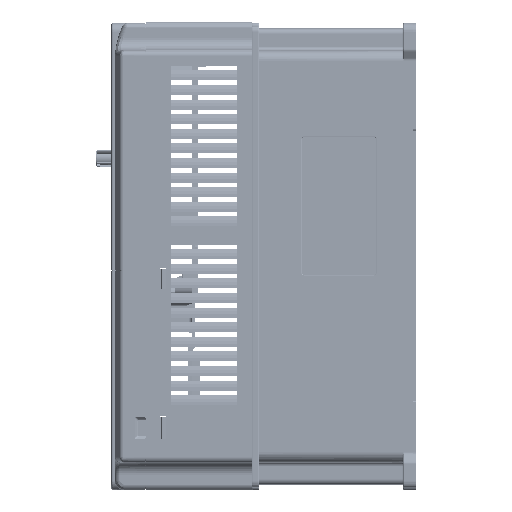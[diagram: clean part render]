
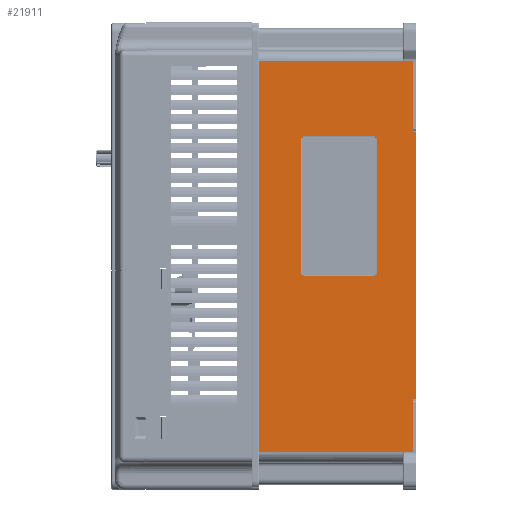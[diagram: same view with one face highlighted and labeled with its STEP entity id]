
A CAD part, left-side view. The second image highlights one B-rep face of the part: STEP entity #21911.
In plain terms, the highlighted planar face has unit normal (-1, 0, 0).
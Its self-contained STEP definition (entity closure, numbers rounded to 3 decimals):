
#30=DIRECTION('',(0.,0.,1.));
#31=VECTOR('',#30,146.);
#32=CARTESIAN_POINT('',(-70.,-80.,-78.));
#33=LINE('',#32,#31);
#122=DIRECTION('',(0.,0.,1.));
#123=VECTOR('',#122,29.169);
#124=CARTESIAN_POINT('',(-70.,-78.5,-107.169));
#125=LINE('',#124,#123);
#126=DIRECTION('',(0.,1.,0.));
#127=VECTOR('',#126,5.);
#128=CARTESIAN_POINT('',(-70.,-78.5,-107.169));
#129=LINE('',#128,#127);
#130=CARTESIAN_POINT('',(-70.,-73.405,
-107.403));
#131=CARTESIAN_POINT('',(-70.,-73.373,
-107.481));
#132=CARTESIAN_POINT('',(-70.,-73.298,
-107.663));
#133=CARTESIAN_POINT('',(-70.,-73.201,
-107.913));
#134=CARTESIAN_POINT('',(-70.,-73.116,
-108.162));
#135=CARTESIAN_POINT('',(-70.,-73.046,
-108.408));
#136=CARTESIAN_POINT('',(-70.,-73.013,-108.574));
#137=CARTESIAN_POINT('',(-70.,-73.,-108.657));
#139=DIRECTION('',(0.,-1.,0.));
#140=VECTOR('',#139,79.);
#141=CARTESIAN_POINT('',(-70.,6.,-107.));
#142=LINE('',#141,#140);
#143=DIRECTION('',(0.,0.,1.));
#144=VECTOR('',#143,214.);
#145=CARTESIAN_POINT('',(-70.,6.,-107.));
#146=LINE('',#145,#144);
#147=DIRECTION('',(0.,1.,0.));
#148=VECTOR('',#147,79.);
#149=CARTESIAN_POINT('',(-70.,-73.,107.));
#150=LINE('',#149,#148);
#151=CARTESIAN_POINT('',(-70.,-73.408,107.395));
#152=CARTESIAN_POINT('',(-70.,-73.366,107.478));
#153=CARTESIAN_POINT('',(-70.,-73.303,107.663));
#154=CARTESIAN_POINT('',(-70.,-73.183,107.953));
#155=CARTESIAN_POINT('',(-70.,-73.078,108.281));
#156=CARTESIAN_POINT('',(-70.,-73.02,108.527));
#157=CARTESIAN_POINT('',(-70.,-73.,108.657));
#159=DIRECTION('',(0.,-1.,0.));
#160=VECTOR('',#159,5.);
#161=CARTESIAN_POINT('',(-70.,-73.5,107.169));
#162=LINE('',#161,#160);
#163=DIRECTION('',(0.,0.,1.));
#164=VECTOR('',#163,39.169);
#165=CARTESIAN_POINT('',(-70.,-78.5,68.));
#166=LINE('',#165,#164);
#167=DIRECTION('',(0.,1.,0.));
#168=VECTOR('',#167,1.5);
#169=CARTESIAN_POINT('',(-70.,-80.,68.));
#170=LINE('',#169,#168);
#171=DIRECTION('',(0.,1.,0.));
#172=VECTOR('',#171,1.5);
#173=CARTESIAN_POINT('',(-70.,-80.,-78.));
#174=LINE('',#173,#172);
#175=CARTESIAN_POINT('',(-70.,-18.6,-9.));
#176=DIRECTION('',(1.,0.,0.));
#177=DIRECTION('',(0.,0.,-1.));
#178=AXIS2_PLACEMENT_3D('',#175,#176,#177);
#180=DIRECTION('',(0.,1.,0.));
#181=VECTOR('',#180,38.4);
#182=CARTESIAN_POINT('',(-70.,-57.,-10.458));
#183=LINE('',#182,#181);
#184=CARTESIAN_POINT('',(-70.,-57.,-9.));
#185=DIRECTION('',(1.,0.,0.));
#186=DIRECTION('',(0.,-1.,0.));
#187=AXIS2_PLACEMENT_3D('',#184,#185,#186);
#189=DIRECTION('',(0.,0.,-1.));
#190=VECTOR('',#189,73.4);
#191=CARTESIAN_POINT('',(-70.,-58.458,64.4));
#192=LINE('',#191,#190);
#193=CARTESIAN_POINT('',(-70.,-57.,64.4));
#194=DIRECTION('',(1.,0.,0.));
#195=DIRECTION('',(0.,0.,1.));
#196=AXIS2_PLACEMENT_3D('',#193,#194,#195);
#198=DIRECTION('',(0.,-1.,0.));
#199=VECTOR('',#198,38.4);
#200=CARTESIAN_POINT('',(-70.,-18.6,65.858));
#201=LINE('',#200,#199);
#202=CARTESIAN_POINT('',(-70.,-18.6,64.4));
#203=DIRECTION('',(1.,0.,0.));
#204=DIRECTION('',(0.,1.,0.));
#205=AXIS2_PLACEMENT_3D('',#202,#203,#204);
#207=DIRECTION('',(0.,0.,1.));
#208=VECTOR('',#207,73.4);
#209=CARTESIAN_POINT('',(-70.,-17.142,-9.));
#210=LINE('',#209,#208);
#1160=DIRECTION('',(0.001,0.,-1.));
#1161=VECTOR('',#1160,1.493);
#1162=CARTESIAN_POINT('',(-70.,-73.,108.657));
#1163=LINE('',#1162,#1161);
#1469=CARTESIAN_POINT('',(-70.,-73.,-108.657));
#1471=DIRECTION('',(0.001,0.,1.));
#1472=VECTOR('',#1471,1.493);
#1473=CARTESIAN_POINT('',(-70.,-73.,-108.657));
#1474=LINE('',#1473,#1472);
#1511=CARTESIAN_POINT('',(-69.999,-73.,107.164));
#1512=CARTESIAN_POINT('',(-69.999,-73.,107.136));
#1513=CARTESIAN_POINT('',(-70.001,-73.,107.087));
#1514=CARTESIAN_POINT('',(-70.,-73.,107.028));
#1515=CARTESIAN_POINT('',(-70.,-73.,107.));
#14847=CARTESIAN_POINT('',(-70.,-73.408,
107.395));
#14854=CARTESIAN_POINT('',(-70.,-73.5,107.169));
#14855=CARTESIAN_POINT('',(-70.,-73.484,107.207));
#14856=CARTESIAN_POINT('',(-70.,-73.453,
107.283));
#14857=CARTESIAN_POINT('',(-70.,-73.423,
107.358));
#14858=CARTESIAN_POINT('',(-70.,-73.408,
107.395));
#15549=CARTESIAN_POINT('',(-70.,-73.,-107.));
#15550=CARTESIAN_POINT('',(-70.,-73.,-107.028));
#15551=CARTESIAN_POINT('',(-70.001,-73.,-107.087));
#15552=CARTESIAN_POINT('',(-69.999,-73.,-107.136));
#15553=CARTESIAN_POINT('',(-69.999,-73.,-107.164));
#15586=CARTESIAN_POINT('',(-70.,-73.405,
-107.403));
#15598=CARTESIAN_POINT('',(-70.,-73.405,
-107.403));
#15599=CARTESIAN_POINT('',(-70.,-73.422,
-107.36));
#15600=CARTESIAN_POINT('',(-70.,-73.447,
-107.298));
#15601=CARTESIAN_POINT('',(-70.,-73.484,-107.209));
#15602=CARTESIAN_POINT('',(-70.,-73.5,-107.169));
#17914=CARTESIAN_POINT('',(-70.,-80.,68.));
#17916=VERTEX_POINT('',#17914);
#17930=CARTESIAN_POINT('',(-70.,-80.,-78.));
#17932=VERTEX_POINT('',#17930);
#17938=CARTESIAN_POINT('',(-70.,-78.5,-107.169));
#17939=CARTESIAN_POINT('',(-70.,-78.5,-78.));
#17940=VERTEX_POINT('',#17938);
#17941=VERTEX_POINT('',#17939);
#17942=CARTESIAN_POINT('',(-70.,-78.5,68.));
#17943=CARTESIAN_POINT('',(-70.,-78.5,107.169));
#17944=VERTEX_POINT('',#17942);
#17945=VERTEX_POINT('',#17943);
#18350=CARTESIAN_POINT('',(-70.,6.,-107.));
#18351=CARTESIAN_POINT('',(-70.,-73.,-107.));
#18352=VERTEX_POINT('',#18350);
#18353=VERTEX_POINT('',#18351);
#18354=CARTESIAN_POINT('',(-70.,-73.,107.));
#18355=CARTESIAN_POINT('',(-70.,6.,107.));
#18356=VERTEX_POINT('',#18354);
#18357=VERTEX_POINT('',#18355);
#18508=CARTESIAN_POINT('',(-70.,-73.5,-107.169));
#18509=VERTEX_POINT('',#18508);
#18511=CARTESIAN_POINT('',(-70.,-73.5,107.169));
#18513=VERTEX_POINT('',#18511);
#18570=VERTEX_POINT('',#15553);
#18571=VERTEX_POINT('',#1511);
#18575=VERTEX_POINT('',#14847);
#18576=VERTEX_POINT('',#157);
#18708=VERTEX_POINT('',#1469);
#18709=VERTEX_POINT('',#15586);
#19303=CARTESIAN_POINT('',(-70.,-18.6,-10.458));
#19304=CARTESIAN_POINT('',(-70.,-17.142,-9.));
#19305=VERTEX_POINT('',#19303);
#19306=VERTEX_POINT('',#19304);
#19311=CARTESIAN_POINT('',(-70.,-17.142,64.4));
#19312=VERTEX_POINT('',#19311);
#19315=CARTESIAN_POINT('',(-70.,-18.6,65.858));
#19316=VERTEX_POINT('',#19315);
#19319=CARTESIAN_POINT('',(-70.,-57.,65.858));
#19320=VERTEX_POINT('',#19319);
#19323=CARTESIAN_POINT('',(-70.,-58.458,64.4));
#19324=VERTEX_POINT('',#19323);
#19327=CARTESIAN_POINT('',(-70.,-58.458,-9.));
#19328=VERTEX_POINT('',#19327);
#19331=CARTESIAN_POINT('',(-70.,-57.,-10.458));
#19332=VERTEX_POINT('',#19331);
#21852=CARTESIAN_POINT('',(-70.,-80.,-125.));
#21853=DIRECTION('',(-1.,0.,0.));
#21854=DIRECTION('',(0.,0.,1.));
#21855=AXIS2_PLACEMENT_3D('',#21852,#21853,#21854);
#21856=PLANE('',#21855);
#21858=ORIENTED_EDGE('',*,*,#21857,.F.);
#21860=ORIENTED_EDGE('',*,*,#21859,.T.);
#21862=ORIENTED_EDGE('',*,*,#21861,.F.);
#21864=ORIENTED_EDGE('',*,*,#21863,.T.);
#21866=ORIENTED_EDGE('',*,*,#21865,.T.);
#21868=ORIENTED_EDGE('',*,*,#21867,.F.);
#21870=ORIENTED_EDGE('',*,*,#21869,.F.);
#21872=ORIENTED_EDGE('',*,*,#21871,.T.);
#21874=ORIENTED_EDGE('',*,*,#21873,.F.);
#21876=ORIENTED_EDGE('',*,*,#21875,.F.);
#21878=ORIENTED_EDGE('',*,*,#21877,.F.);
#21880=ORIENTED_EDGE('',*,*,#21879,.F.);
#21882=ORIENTED_EDGE('',*,*,#21881,.F.);
#21884=ORIENTED_EDGE('',*,*,#21883,.T.);
#21886=ORIENTED_EDGE('',*,*,#21885,.F.);
#21887=ORIENTED_EDGE('',*,*,#21828,.F.);
#21888=ORIENTED_EDGE('',*,*,#21683,.F.);
#21890=ORIENTED_EDGE('',*,*,#21889,.T.);
#21891=EDGE_LOOP('',(#21858,#21860,#21862,#21864,#21866,#21868,#21870,#21872,
#21874,#21876,#21878,#21880,#21882,#21884,#21886,#21887,#21888,#21890));
#21892=FACE_OUTER_BOUND('',#21891,.F.);
#21894=ORIENTED_EDGE('',*,*,#21893,.F.);
#21896=ORIENTED_EDGE('',*,*,#21895,.F.);
#21898=ORIENTED_EDGE('',*,*,#21897,.F.);
#21900=ORIENTED_EDGE('',*,*,#21899,.F.);
#21902=ORIENTED_EDGE('',*,*,#21901,.F.);
#21904=ORIENTED_EDGE('',*,*,#21903,.F.);
#21906=ORIENTED_EDGE('',*,*,#21905,.F.);
#21908=ORIENTED_EDGE('',*,*,#21907,.F.);
#21909=EDGE_LOOP('',(#21894,#21896,#21898,#21900,#21902,#21904,#21906,#21908));
#21910=FACE_BOUND('',#21909,.F.);
#138=B_SPLINE_CURVE_WITH_KNOTS('',3,(#130,#131,#132,#133,#134,#135,#136,#137),
.UNSPECIFIED.,.F.,.F.,(4,1,1,1,1,4),(0.,0.2,0.4,0.6,0.8,1.),
.UNSPECIFIED.);
#158=B_SPLINE_CURVE_WITH_KNOTS('',3,(#151,#152,#153,#154,#155,#156,#157),
.UNSPECIFIED.,.F.,.F.,(4,1,1,1,4),(0.,0.25,0.5,0.75,1.),
.UNSPECIFIED.);
#179=CIRCLE('',#178,1.458);
#188=CIRCLE('',#187,1.458);
#197=CIRCLE('',#196,1.458);
#206=CIRCLE('',#205,1.458);
#1516=B_SPLINE_CURVE_WITH_KNOTS('',3,(#1511,#1512,#1513,#1514,#1515),
.UNSPECIFIED.,.F.,.F.,(4,1,4),(0.,0.5,1.),.UNSPECIFIED.);
#14859=B_SPLINE_CURVE_WITH_KNOTS('',3,(#14854,#14855,#14856,#14857,#14858),
.UNSPECIFIED.,.F.,.F.,(4,1,4),(0.,0.5,1.),.UNSPECIFIED.);
#15554=B_SPLINE_CURVE_WITH_KNOTS('',3,(#15549,#15550,#15551,#15552,#15553),
.UNSPECIFIED.,.F.,.F.,(4,1,4),(0.,0.5,1.),.UNSPECIFIED.);
#15603=B_SPLINE_CURVE_WITH_KNOTS('',3,(#15598,#15599,#15600,#15601,#15602),
.UNSPECIFIED.,.F.,.F.,(4,1,4),(0.,0.5,1.),.UNSPECIFIED.);
#21683=EDGE_CURVE('',#17932,#17916,#33,.T.);
#21828=EDGE_CURVE('',#17916,#17944,#170,.T.);
#21857=EDGE_CURVE('',#17940,#17941,#125,.T.);
#21859=EDGE_CURVE('',#17940,#18509,#129,.T.);
#21861=EDGE_CURVE('',#18709,#18509,#15603,.T.);
#21863=EDGE_CURVE('',#18709,#18708,#138,.T.);
#21865=EDGE_CURVE('',#18708,#18570,#1474,.T.);
#21867=EDGE_CURVE('',#18353,#18570,#15554,.T.);
#21869=EDGE_CURVE('',#18352,#18353,#142,.T.);
#21871=EDGE_CURVE('',#18352,#18357,#146,.T.);
#21873=EDGE_CURVE('',#18356,#18357,#150,.T.);
#21875=EDGE_CURVE('',#18571,#18356,#1516,.T.);
#21877=EDGE_CURVE('',#18576,#18571,#1163,.T.);
#21879=EDGE_CURVE('',#18575,#18576,#158,.T.);
#21881=EDGE_CURVE('',#18513,#18575,#14859,.T.);
#21883=EDGE_CURVE('',#18513,#17945,#162,.T.);
#21885=EDGE_CURVE('',#17944,#17945,#166,.T.);
#21889=EDGE_CURVE('',#17932,#17941,#174,.T.);
#21893=EDGE_CURVE('',#19305,#19306,#179,.T.);
#21895=EDGE_CURVE('',#19332,#19305,#183,.T.);
#21897=EDGE_CURVE('',#19328,#19332,#188,.T.);
#21899=EDGE_CURVE('',#19324,#19328,#192,.T.);
#21901=EDGE_CURVE('',#19320,#19324,#197,.T.);
#21903=EDGE_CURVE('',#19316,#19320,#201,.T.);
#21905=EDGE_CURVE('',#19312,#19316,#206,.T.);
#21907=EDGE_CURVE('',#19306,#19312,#210,.T.);
#21911=ADVANCED_FACE('',(#21892,#21910),#21856,.T.);
